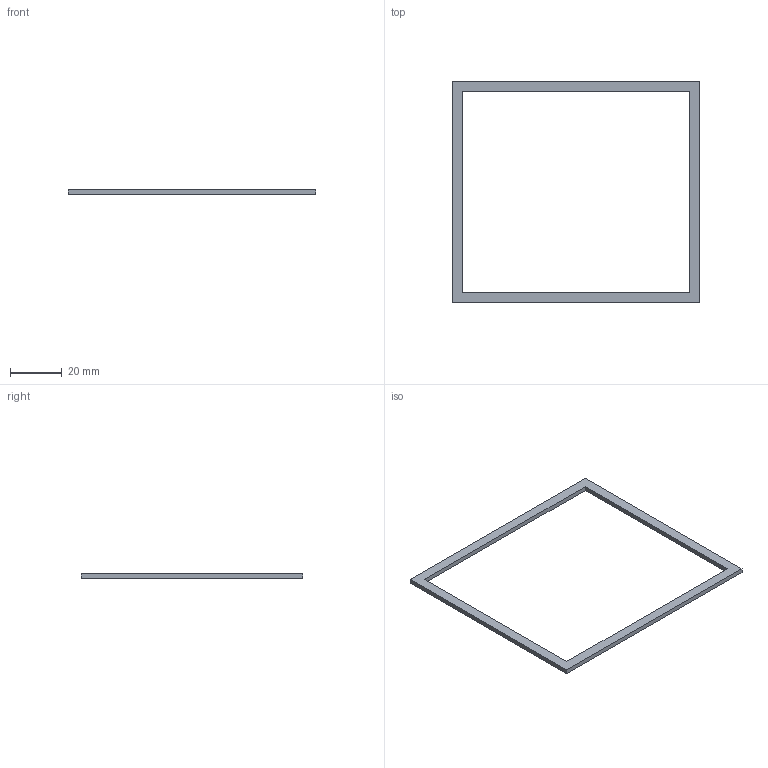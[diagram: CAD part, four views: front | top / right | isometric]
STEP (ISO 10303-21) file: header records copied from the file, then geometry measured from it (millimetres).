
FILE_DESCRIPTION(('Open CASCADE Model'),'2;1');
FILE_NAME('Open CASCADE Shape Model','2026-09-10T23:36:51',('Author'),( 'Open CASCADE'),'Open CASCADE STEP processor 7.9','Open CASCADE 7.9' ,'Unknown');
FILE_SCHEMA(('AUTOMOTIVE_DESIGN { 1 0 10303 214 1 1 1 1 }'));
Length unit declared in the file: millimetre
Products named in the file (1): Open CASCADE STEP translator 7.9 19
Bounding box: 96 x 86 x 1.8 mm (x, y, z)
Volume: 2505.6 mm3; surface area: 4036.8 mm2
Topology: 1 solids, 1 shells, 10 faces, 24 edges, 16 vertices
Faces by surface type: plane 10
Entity records: 606 total; most frequent: CARTESIAN_POINT 107, DIRECTION 86, LINE 64, VECTOR 64, ORIENTED_EDGE 48, PCURVE 48, DEFINITIONAL_REPRESENTATION 48, EDGE_CURVE 24
